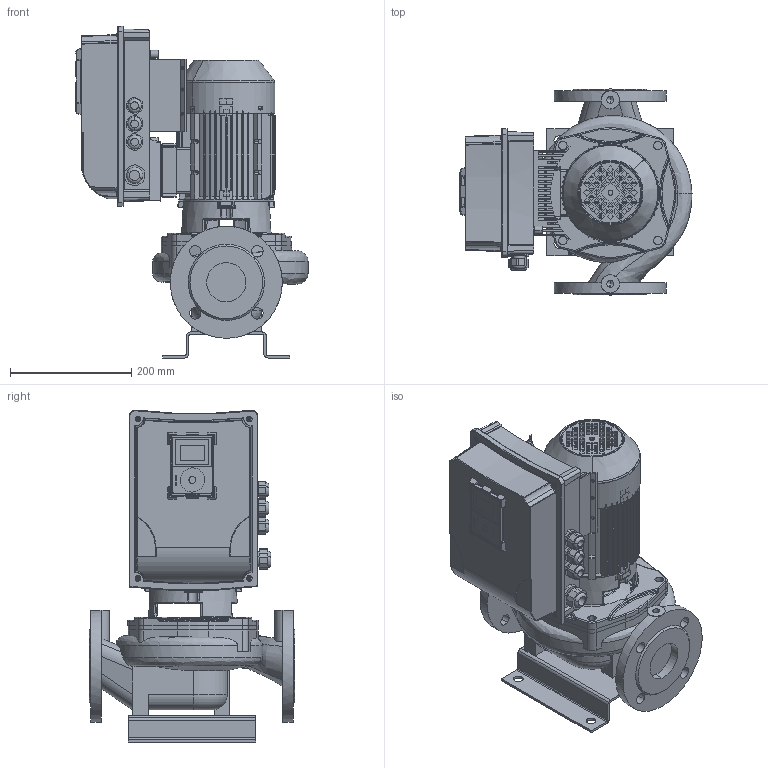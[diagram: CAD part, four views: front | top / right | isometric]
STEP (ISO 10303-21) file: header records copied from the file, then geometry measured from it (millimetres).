
FILE_DESCRIPTION(('STEP AP214'),'1');
FILE_NAME('export.stp','2018-06-01T13:56:54',(' '),(' '),'Spatial InterOp 3D',' ',' ');
FILE_SCHEMA(('AUTOMOTIVE_DESIGN { 1 0 10303 214 1 1 1 1 }'));
Length unit declared in the file: millimetre
Products named in the file (27): W_L65A4770_withou; V_TLL65AB80A1102; V_PPL65AB; V_JALKA35973; W_L65A4900_KPVS; 160022; 160003; V_MKP80-2-F19_VS; 480032; 480031___; 480034; 480033___; 160133; SOVITUSPALA; Vacon_MS2; G43699; Vacon20CP_MS2; MS2_bottom_final; P101407; MS2_cover_final; Vacon_Display; CAD-3D-VACON-M100-Display.sldasm; Vacon_display_pla; Vacon_display_scr; DIN_966-M5x10; M20_tiivisteholkk; M25_tiivisteholkk
Assembly tree (31 placements, depth 6):
  W_L65A4900_KPVS
    W_L65A4770_withou
      V_TLL65AB80A1102
      V_PPL65AB
      V_JALKA35973
    V_MKP80-2-F19_VS
      160022
        160003
      480032
        480031___
      480034
        480033___
      160133
      SOVITUSPALA
      Vacon_MS2
        G43699
        Vacon20CP_MS2
          MS2_bottom_final
          P101407
          MS2_cover_final
          Vacon_Display
            CAD-3D-VACON-M100-Display.sldasm
            Vacon_display_pla
            Vacon_display_scr
          DIN_966-M5x10  x4
          M20_tiivisteholkk  x3
          M25_tiivisteholkk
Bounding box: 383.31 x 340 x 548.3 mm (x, y, z)
Volume: 7795764.2 mm3; surface area: 1913733.7 mm2
Topology: 22 solids, 1495 shells, 5382 faces, 17982 edges, 14061 vertices
Faces by surface type: bspline 1899, plane 1408, cylinder 1257, torus 451, cone 264, sphere 103
Entity records: 250459 total; most frequent: CARTESIAN_POINT 106120, ORIENTED_EDGE 27008, DIRECTION 18232, EDGE_CURVE 17326, VERTEX_POINT 13743, B_SPLINE_CURVE_WITH_KNOTS 7906, AXIS2_PLACEMENT_3D 7010, EDGE_LOOP 5633
